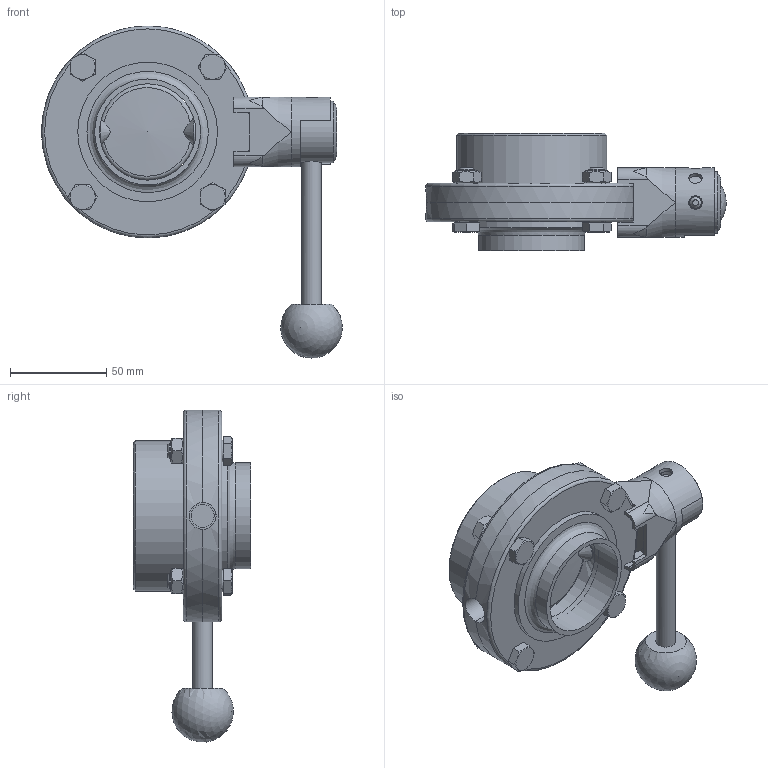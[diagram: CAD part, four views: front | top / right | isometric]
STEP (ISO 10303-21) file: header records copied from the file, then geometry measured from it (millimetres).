
FILE_DESCRIPTION((''),'2;1');
FILE_NAME('K:\2013 konstrukce\4xxxx\43020-KLAPKA PŘÍMÁ G-S\43020-050\43020-050.stp','2019-12-09T14:14:17',('konstrukce'),(''),'Autodesk Inventor 2010','Autodesk Inventor 2010','');
FILE_SCHEMA(('AUTOMOTIVE_DESIGN { 1 0 10303 214 1 1 1 1 }'));
Length unit declared in the file: millimetre
Products named in the file (15): 43020-050; 4381-050-R-PŘÍRUBA PŘÍVAŘOVACÍ; 4382-050-Přírubá klapka-závitová; 4329-050-Srdca klapky; 4330-050-Ložisko klapky; 4328-050-Těsnění pro klapku; 2004-050-TĚSNĚNÍ; DIN 933 - nahrazený DIN EN 24017 M8  x 28; DIN 934 - nahrazený DIN EN 24032/28673/28674 M8; ovladani 25-65; 43483-025-065 Plášť ovládání malý-Handle cover small; KOULA-25-65; 43481-025-065-9,5 Střed ovládání malý-Handle pivot small; 43482-025-032; 43482-025-32
Assembly tree (21 placements, depth 3):
  43020-050
    4381-050-R-PŘÍRUBA PŘÍVAŘOVACÍ
    4382-050-Přírubá klapka-závitová
    4329-050-Srdca klapky
    4330-050-Ložisko klapky  x2
    4328-050-Těsnění pro klapku
    2004-050-TĚSNĚNÍ
    DIN 933 - nahrazený DIN EN 24017 M8  x 28  x4
    DIN 934 - nahrazený DIN EN 24032/28673/28674 M8  x4
    ovladani 25-65
      43483-025-065 Plášť ovládání malý-Handle cover small
      KOULA-25-65
      43481-025-065-9,5 Střed ovládání malý-Handle pivot small
      43482-025-032
      43482-025-32
Bounding box: 156.07 x 61 x 172.36 mm (x, y, z)
Volume: 305475.9 mm3; surface area: 115854.6 mm2
Topology: 20 solids, 20 shells, 325 faces, 776 edges, 491 vertices
Faces by surface type: plane 153, cylinder 69, cone 68, bspline 23, torus 11, sphere 1
Full cylindrical faces by diameter (mm): 6 x1, 7 x1, 7.323 x4, 8 x4, 8.5 x11, 10 x2, 10.2 x1, 11.4 x4, 12 x4, 14 x4, 14.1 x1, 31.8 x1, 36 x1, 50 x2, 54 x2, 55 x1, 63.8 x1, 64 x1, 66.5 x2, 67 x1, 72.5 x1, 78 x1, 110 x2
Entity records: 7585 total; most frequent: CARTESIAN_POINT 2465, DIRECTION 974, ORIENTED_EDGE 850, EDGE_CURVE 425, AXIS2_PLACEMENT_3D 404, EDGE_LOOP 360, VERTEX_POINT 319, FACE_OUTER_BOUND 219
